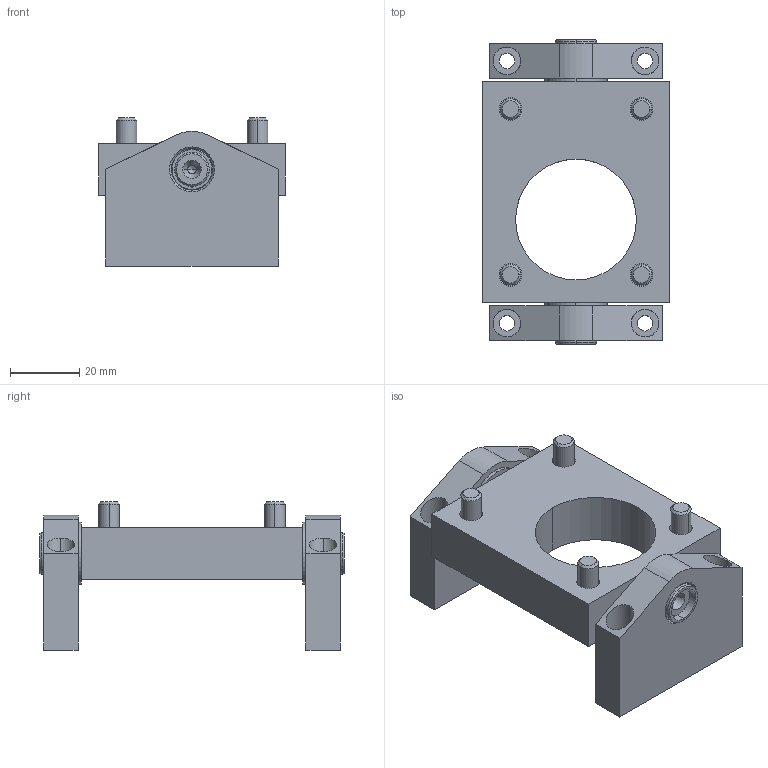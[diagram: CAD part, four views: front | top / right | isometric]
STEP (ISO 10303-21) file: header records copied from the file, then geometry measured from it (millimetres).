
FILE_DESCRIPTION (( 'STEP AP203' ), '1' );
FILE_NAME ('MJ0-KP(Z1)-SFK.STEP', '2024-01-05T11:17:20', ( '' ), ( '' ), 'SwSTEP 2.0', 'SolidWorks 2022', '' );
FILE_SCHEMA (( 'CONFIG_CONTROL_DESIGN' ));
Length unit declared in the file: millimetre
Products named in the file (1): MJ0-KP(Z1)-SFK
Bounding box: 54 x 88.15 x 42.9 mm (x, y, z)
Volume: 67901.3 mm3; surface area: 29605.8 mm2
Topology: 9 solids, 9 shells, 220 faces, 530 edges, 336 vertices
Faces by surface type: plane 80, cylinder 76, cone 40, torus 24
Entity records: 6497 total; most frequent: CARTESIAN_POINT 1225, DIRECTION 1152, ORIENTED_EDGE 1036, EDGE_CURVE 518, AXIS2_PLACEMENT_3D 461, VERTEX_POINT 336, EDGE_LOOP 262, CIRCLE 240
